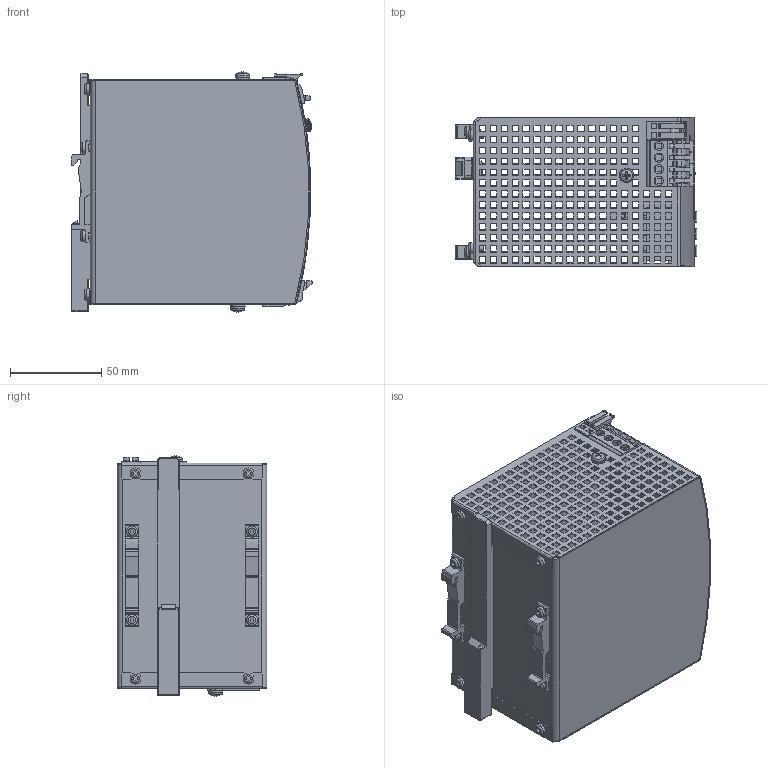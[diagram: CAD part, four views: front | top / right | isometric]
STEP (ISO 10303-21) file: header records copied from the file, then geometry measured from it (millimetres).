
FILE_DESCRIPTION((''),'2;1');
FILE_NAME('C:\Users\rahns\Desktop\Marketing\SD1QS20-241-A1SR1_SC_2014-06-30.stp','2014-06-30T10:44:02',('rahns'),(''),'Autodesk Inventor 2009','Autodesk Inventor 2009','');
FILE_SCHEMA(('AUTOMOTIVE_DESIGN { 1 0 10303 214 1 1 1 1 }'));
Length unit declared in the file: millimetre
Products named in the file (15): 362; HOUSING BODY 362; HOUSING COVER 362; T HOLDER; SLIDER; SCREW 3x6; WASHER 4; SCREW 4x8; POTENTIOMETER COVER; TERMINAL 4P R6,35; TERMINAL 2P R5; TERMINAL 3P R9,52; LED GN; LED RD; FRONTFOIL 362
Assembly tree (24 placements, depth 2):
  362
    HOUSING BODY 362
    HOUSING COVER 362
    T HOLDER  x2
    SLIDER
    SCREW 3x6  x8
    WASHER 4  x2
    SCREW 4x8  x2
    POTENTIOMETER COVER
    TERMINAL 4P R6,35
    TERMINAL 2P R5
    TERMINAL 3P R9,52
    LED GN
    LED RD
    FRONTFOIL 362
Bounding box: 132.7 x 82 x 131.73 mm (x, y, z)
Volume: 107250.4 mm3; surface area: 163582.9 mm2
Topology: 24 solids, 24 shells, 3266 faces, 9297 edges, 6182 vertices
Faces by surface type: plane 2616, cylinder 315, bspline 253, torus 34, cone 34, sphere 14
Full cylindrical faces by diameter (mm): 1 x2, 1.25 x7, 2.45 x4, 3 x8, 3.1 x4, 3.5 x2, 3.621 x2, 4 x2, 4.199 x1, 4.355 x1, 4.5 x4, 4.6 x2, 4.899 x1, 5 x4, 5.5 x3, 6 x8
Entity records: 107885 total; most frequent: CARTESIAN_POINT 26144, ORIENTED_EDGE 17488, DIRECTION 14722, EDGE_CURVE 8744, VECTOR 7348, LINE 7348, VERTEX_POINT 5837, EDGE_LOOP 4109
